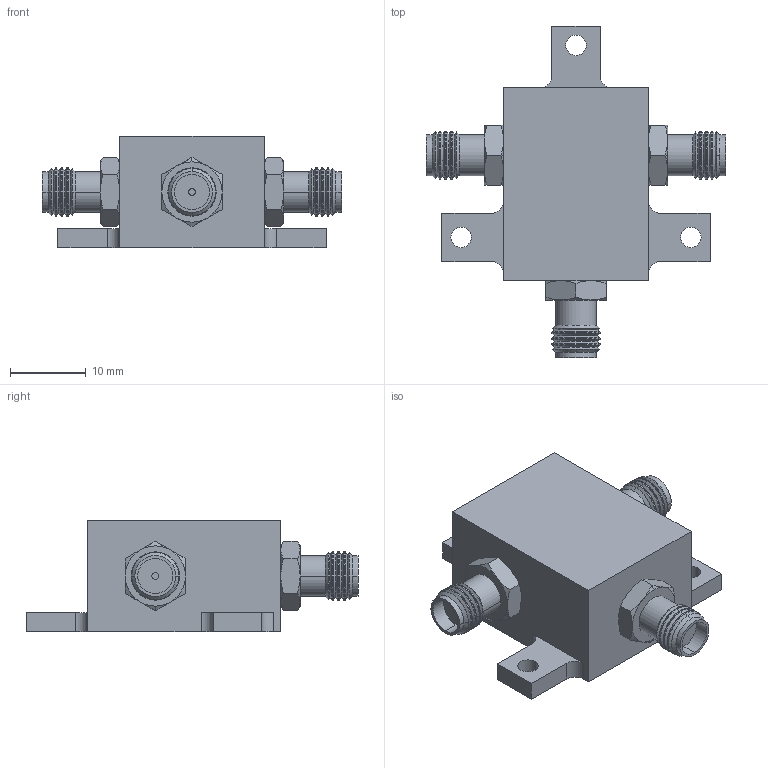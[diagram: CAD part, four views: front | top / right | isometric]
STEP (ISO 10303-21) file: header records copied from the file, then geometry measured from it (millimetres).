
FILE_DESCRIPTION (( 'STEP AP214' ), '1' );
FILE_NAME ('JJJ245_WITH BRACKET.STEP', '2016-08-03T20:10:05', ( 'mcl' ), ( 'Microsoft' ), 'SwSTEP 2.0', 'SolidWorks 2016', '' );
FILE_SCHEMA (( 'AUTOMOTIVE_DESIGN' ));
Length unit declared in the file: inch
Products named in the file (1): JJJ245_WITH BRACKET
Bounding box: 39.37 x 43.69 x 14.73 mm (x, y, z)
Volume: 8367.8 mm3; surface area: 3584.3 mm2
Topology: 1 solids, 1 shells, 240 faces, 576 edges, 350 vertices
Faces by surface type: cone 102, cylinder 54, plane 48, bspline 36
Entity records: 7522 total; most frequent: CARTESIAN_POINT 1923, DIRECTION 1232, ORIENTED_EDGE 1152, EDGE_CURVE 576, AXIS2_PLACEMENT_3D 523, VERTEX_POINT 350, CIRCLE 318, EDGE_LOOP 258
